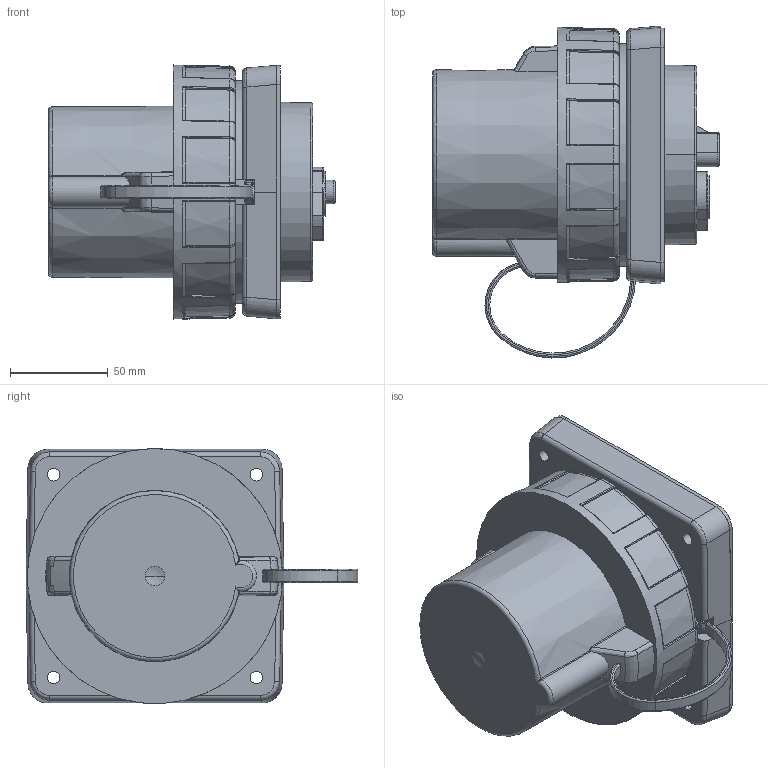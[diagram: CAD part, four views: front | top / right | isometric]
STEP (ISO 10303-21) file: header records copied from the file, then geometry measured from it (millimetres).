
FILE_DESCRIPTION((''),'2;1');
FILE_NAME('1116517_ASM_SW0001','2018-04-17T',('gisse'),('MENNEKES'),'PRO/ENGINEER BY PARAMETRIC TECHNOLOGY CORPORATION, 2015440','PRO/ENGINEER BY PARAMETRIC TECHNOLOGY CORPORATION, 2015440','');
FILE_SCHEMA(('AUTOMOTIVE_DESIGN { 1 0 10303 214 1 1 1 1 }'));
Length unit declared in the file: millimetre
Products named in the file (1): 1116517_ASM_SW0001
Bounding box: 147.1 x 170.24 x 130.78 mm (x, y, z)
Volume: 1262867.4 mm3; surface area: 103808.4 mm2
Topology: 1 solids, 1 shells, 718 faces, 1813 edges, 1123 vertices
Faces by surface type: cylinder 216, plane 205, bspline 94, cone 92, torus 89, sphere 20, extrusion 2
Entity records: 39386 total; most frequent: CARTESIAN_POINT 9280, ORIENTED_EDGE 3622, DIRECTION 3388, PRESENTATION_STYLE_ASSIGNMENT 2468, STYLED_ITEM 1852, CURVE_STYLE 1811, EDGE_CURVE 1811, AXIS2_PLACEMENT_3D 1387
